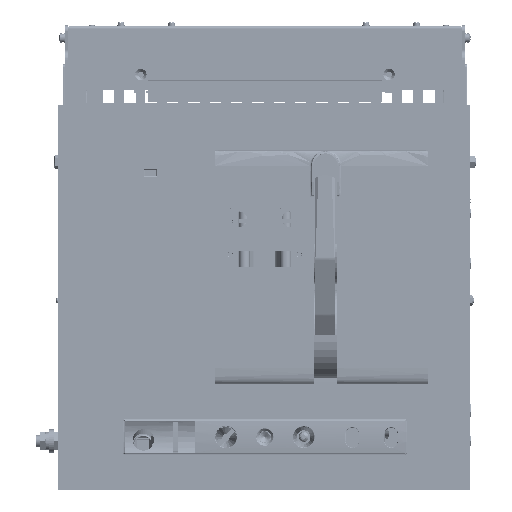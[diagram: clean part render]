
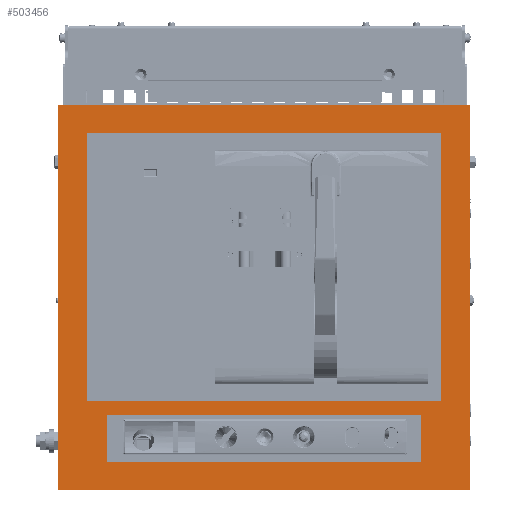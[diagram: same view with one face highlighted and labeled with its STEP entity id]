
A CAD part, top view. The second image highlights one B-rep face of the part: STEP entity #503456.
In plain terms, the highlighted planar face has unit normal (0, 0, 1) as drawn and (0, 1, 0) by its records, which use the part's own axes.
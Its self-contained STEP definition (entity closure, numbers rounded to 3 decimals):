
#5392 = LINE ( 'NONE', #535555, #263387 ) ;
#9843 = LINE ( 'NONE', #250076, #286352 ) ;
#19220 = LINE ( 'NONE', #424833, #56405 ) ;
#32441 = CARTESIAN_POINT ( 'NONE',  ( 212., 11., -198. ) ) ;
#32699 = VERTEX_POINT ( 'NONE', #32441 ) ;
#39451 = CARTESIAN_POINT ( 'NONE',  ( -212., 11., -198. ) ) ;
#56405 = VECTOR ( 'NONE', #178058, 1000. ) ;
#93271 = EDGE_CURVE ( 'NONE', #32699, #358430, #536938, .T. ) ;
#95840 = ORIENTED_EDGE ( 'NONE', *, *, #93271, .T. ) ;
#96110 = FACE_OUTER_BOUND ( 'NONE', #247671, .T. ) ;
#99778 = EDGE_LOOP ( 'NONE', ( #148543, #136049, #442293, #298113 ) ) ;
#102416 = ORIENTED_EDGE ( 'NONE', *, *, #589760, .T. ) ;
#106496 = ORIENTED_EDGE ( 'NONE', *, *, #190594, .T. ) ;
#110045 = DIRECTION ( 'NONE',  ( 0., 0., 1. ) ) ;
#115923 = LINE ( 'NONE', #609468, #603303 ) ;
#132991 = CARTESIAN_POINT ( 'NONE',  ( 182., 11., 106. ) ) ;
#134807 = EDGE_CURVE ( 'NONE', #569347, #156606, #5392, .T. ) ;
#136049 = ORIENTED_EDGE ( 'NONE', *, *, #200750, .T. ) ;
#148543 = ORIENTED_EDGE ( 'NONE', *, *, #393971, .T. ) ;
#155505 = LINE ( 'NONE', #252910, #300188 ) ;
#156606 = VERTEX_POINT ( 'NONE', #157813 ) ;
#157523 = CARTESIAN_POINT ( 'NONE',  ( -212., 11., -198. ) ) ;
#157813 = CARTESIAN_POINT ( 'NONE',  ( 161.5, 11., 121. ) ) ;
#176121 = CARTESIAN_POINT ( 'NONE',  ( -182., 11., -169. ) ) ;
#178058 = DIRECTION ( 'NONE',  ( 0., 0., -1. ) ) ;
#181085 = EDGE_CURVE ( 'NONE', #384965, #249790, #9843, .T. ) ;
#188663 = LINE ( 'NONE', #39451, #499836 ) ;
#190594 = EDGE_CURVE ( 'NONE', #358430, #329144, #188663, .T. ) ;
#196408 = LINE ( 'NONE', #592598, #519982 ) ;
#198241 = DIRECTION ( 'NONE',  ( 0., 0., 1. ) ) ;
#200750 = EDGE_CURVE ( 'NONE', #437951, #384965, #478472, .T. ) ;
#203032 = DIRECTION ( 'NONE',  ( 0., 1., 0. ) ) ;
#207774 = DIRECTION ( 'NONE',  ( 1., 0., 0. ) ) ;
#225462 = DIRECTION ( 'NONE',  ( 0., 0., 1. ) ) ;
#234770 = ORIENTED_EDGE ( 'NONE', *, *, #602255, .T. ) ;
#245926 = ORIENTED_EDGE ( 'NONE', *, *, #511400, .T. ) ;
#246476 = CARTESIAN_POINT ( 'NONE',  ( -161.5, 11., 169. ) ) ;
#247671 = EDGE_LOOP ( 'NONE', ( #245926, #102416, #95840, #106496 ) ) ;
#249790 = VERTEX_POINT ( 'NONE', #441171 ) ;
#250076 = CARTESIAN_POINT ( 'NONE',  ( -182., 11., -169. ) ) ;
#250077 = VECTOR ( 'NONE', #439518, 1000. ) ;
#251742 = CARTESIAN_POINT ( 'NONE',  ( 0., 11., 0. ) ) ;
#252910 = CARTESIAN_POINT ( 'NONE',  ( 182., 11., -169. ) ) ;
#257296 = CARTESIAN_POINT ( 'NONE',  ( -182., 11., 106. ) ) ;
#263387 = VECTOR ( 'NONE', #334288, 1000. ) ;
#265566 = EDGE_CURVE ( 'NONE', #156606, #285232, #608872, .T. ) ;
#278459 = ORIENTED_EDGE ( 'NONE', *, *, #134807, .T. ) ;
#281589 = VECTOR ( 'NONE', #481670, 1000. ) ;
#283659 = CARTESIAN_POINT ( 'NONE',  ( -182., 11., 106. ) ) ;
#285232 = VERTEX_POINT ( 'NONE', #445369 ) ;
#286352 = VECTOR ( 'NONE', #207774, 1000. ) ;
#287309 = AXIS2_PLACEMENT_3D ( 'NONE', #251742, #203032, #544042 ) ;
#297059 = DIRECTION ( 'NONE',  ( -1., 0., 0. ) ) ;
#298113 = ORIENTED_EDGE ( 'NONE', *, *, #399727, .T. ) ;
#300188 = VECTOR ( 'NONE', #110045, 1000. ) ;
#300454 = FACE_BOUND ( 'NONE', #99778, .T. ) ;
#329144 = VERTEX_POINT ( 'NONE', #440766 ) ;
#330457 = DIRECTION ( 'NONE',  ( 0., 0., -1. ) ) ;
#330976 = DIRECTION ( 'NONE',  ( -1., 0., 0. ) ) ;
#331895 = CARTESIAN_POINT ( 'NONE',  ( 182., 11., 106. ) ) ;
#333664 = CARTESIAN_POINT ( 'NONE',  ( -161.5, 11., 169. ) ) ;
#334288 = DIRECTION ( 'NONE',  ( 1., 0., 0. ) ) ;
#358430 = VERTEX_POINT ( 'NONE', #157523 ) ;
#379164 = EDGE_CURVE ( 'NONE', #285232, #528170, #196408, .T. ) ;
#379967 = VECTOR ( 'NONE', #330976, 1000. ) ;
#384965 = VERTEX_POINT ( 'NONE', #176121 ) ;
#386019 = CARTESIAN_POINT ( 'NONE',  ( -161.5, 11., 121. ) ) ;
#393971 = EDGE_CURVE ( 'NONE', #490228, #437951, #532242, .T. ) ;
#399727 = EDGE_CURVE ( 'NONE', #249790, #490228, #155505, .T. ) ;
#406490 = EDGE_LOOP ( 'NONE', ( #483273, #234770, #278459, #630192 ) ) ;
#424833 = CARTESIAN_POINT ( 'NONE',  ( 212., 11., 198. ) ) ;
#437951 = VERTEX_POINT ( 'NONE', #257296 ) ;
#439518 = DIRECTION ( 'NONE',  ( -1., 0., 0. ) ) ;
#440766 = CARTESIAN_POINT ( 'NONE',  ( -212., 11., 198. ) ) ;
#441171 = CARTESIAN_POINT ( 'NONE',  ( 182., 11., -169. ) ) ;
#442293 = ORIENTED_EDGE ( 'NONE', *, *, #181085, .T. ) ;
#445369 = CARTESIAN_POINT ( 'NONE',  ( 161.5, 11., 169. ) ) ;
#472854 = DIRECTION ( 'NONE',  ( 1., 0., 0. ) ) ;
#478472 = LINE ( 'NONE', #283659, #281589 ) ;
#481670 = DIRECTION ( 'NONE',  ( 0., 0., -1. ) ) ;
#483273 = ORIENTED_EDGE ( 'NONE', *, *, #379164, .T. ) ;
#488905 = FACE_BOUND ( 'NONE', #406490, .T. ) ;
#490228 = VERTEX_POINT ( 'NONE', #331895 ) ;
#495319 = PLANE ( 'NONE',  #287309 ) ;
#495981 = VECTOR ( 'NONE', #225462, 1000. ) ;
#499836 = VECTOR ( 'NONE', #198241, 1000. ) ;
#503456 = ADVANCED_FACE ( 'NONE', ( #488905, #300454, #96110 ), #495319, .T. ) ;
#511400 = EDGE_CURVE ( 'NONE', #329144, #560528, #115923, .T. ) ;
#519982 = VECTOR ( 'NONE', #297059, 1000. ) ;
#528170 = VERTEX_POINT ( 'NONE', #246476 ) ;
#532242 = LINE ( 'NONE', #132991, #379967 ) ;
#535555 = CARTESIAN_POINT ( 'NONE',  ( -161.5, 11., 121. ) ) ;
#536938 = LINE ( 'NONE', #637697, #250077 ) ;
#544042 = DIRECTION ( 'NONE',  ( 1., 0., 0. ) ) ;
#560528 = VERTEX_POINT ( 'NONE', #567014 ) ;
#565781 = VECTOR ( 'NONE', #330457, 1000. ) ;
#567014 = CARTESIAN_POINT ( 'NONE',  ( 212., 11., 198. ) ) ;
#569347 = VERTEX_POINT ( 'NONE', #386019 ) ;
#572906 = CARTESIAN_POINT ( 'NONE',  ( 161.5, 11., 121. ) ) ;
#583687 = LINE ( 'NONE', #333664, #565781 ) ;
#589760 = EDGE_CURVE ( 'NONE', #560528, #32699, #19220, .T. ) ;
#592598 = CARTESIAN_POINT ( 'NONE',  ( 161.5, 11., 169. ) ) ;
#602255 = EDGE_CURVE ( 'NONE', #528170, #569347, #583687, .T. ) ;
#603303 = VECTOR ( 'NONE', #472854, 1000. ) ;
#608872 = LINE ( 'NONE', #572906, #495981 ) ;
#609468 = CARTESIAN_POINT ( 'NONE',  ( -212., 11., 198. ) ) ;
#630192 = ORIENTED_EDGE ( 'NONE', *, *, #265566, .T. ) ;
#637697 = CARTESIAN_POINT ( 'NONE',  ( 212., 11., -198. ) ) ;
